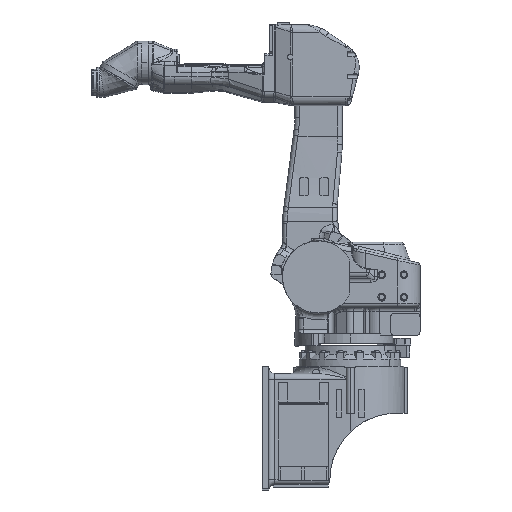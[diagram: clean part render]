
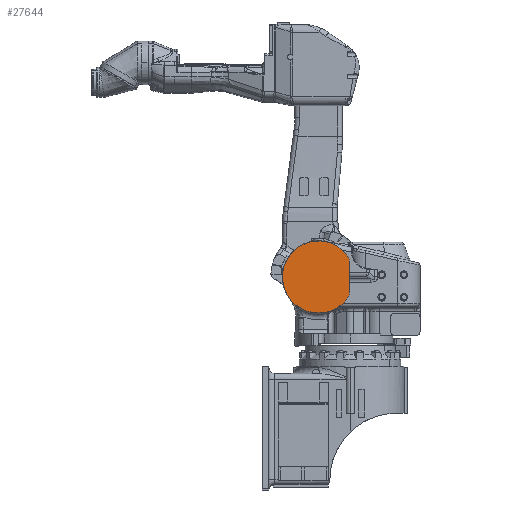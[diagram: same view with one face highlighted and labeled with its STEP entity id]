
A CAD part, left-side view. The second image highlights one B-rep face of the part: STEP entity #27644.
In plain terms, the highlighted planar face has unit normal (-1, 0, 0).
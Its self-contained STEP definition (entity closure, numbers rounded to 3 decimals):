
#24172=CARTESIAN_POINT('Vertex',(-255.,14.909,99.761)) ;
#24476=CARTESIAN_POINT('Vertex',(-255.,140.,-160.)) ;
#24479=CARTESIAN_POINT('Axis2P3D Location',(-255.,140.,0.)) ;
#27606=CARTESIAN_POINT('Axis2P3D Location',(-255.,140.,0.)) ;
#27611=CARTESIAN_POINT('Axis2P3D Location',(-255.,54.,-68.586)) ;
#27615=CARTESIAN_POINT('Vertex',(-255.,14.909,-99.761)) ;
#27617=CARTESIAN_POINT('Vertex',(-255.,4.,-68.586)) ;
#27620=CARTESIAN_POINT('Line Origine',(-255.,4.,0.)) ;
#27624=CARTESIAN_POINT('Vertex',(-255.,4.,68.586)) ;
#27627=CARTESIAN_POINT('Axis2P3D Location',(-255.,54.,68.586)) ;
#27632=CARTESIAN_POINT('Axis2P3D Location',(-255.,140.,0.)) ;
#24480=DIRECTION('Axis2P3D Direction',(-1.,0.,0.)) ;
#27607=DIRECTION('Axis2P3D Direction',(-1.,0.,0.)) ;
#27608=DIRECTION('Axis2P3D XDirection',(0.,1.,0.)) ;
#27612=DIRECTION('Axis2P3D Direction',(-1.,0.,0.)) ;
#27621=DIRECTION('Vector Direction',(0.,0.,-1.)) ;
#27628=DIRECTION('Axis2P3D Direction',(-1.,0.,0.)) ;
#27633=DIRECTION('Axis2P3D Direction',(-1.,0.,0.)) ;
#24481=AXIS2_PLACEMENT_3D('Circle Axis2P3D',#24479,#24480,$) ;
#27609=AXIS2_PLACEMENT_3D('Plane Axis2P3D',#27606,#27607,#27608) ;
#27613=AXIS2_PLACEMENT_3D('Circle Axis2P3D',#27611,#27612,$) ;
#27629=AXIS2_PLACEMENT_3D('Circle Axis2P3D',#27627,#27628,$) ;
#27634=AXIS2_PLACEMENT_3D('Circle Axis2P3D',#27632,#27633,$) ;
#27638=ORIENTED_EDGE('',*,*,#27619,.T.) ;
#27639=ORIENTED_EDGE('',*,*,#27626,.T.) ;
#27640=ORIENTED_EDGE('',*,*,#27631,.F.) ;
#27641=ORIENTED_EDGE('',*,*,#24483,.F.) ;
#27642=ORIENTED_EDGE('',*,*,#27636,.F.) ;
#27622=VECTOR('Line Direction',#27621,1.) ;
#27644=ADVANCED_FACE('\X2\FF8EFF9EFF83FF9EFF68FF70\X0\.86',(#27643),#27610,.T.) ;
#24482=CIRCLE('generated circle',#24481,160.) ;
#27614=CIRCLE('generated circle',#27613,50.) ;
#27630=CIRCLE('generated circle',#27629,50.) ;
#27635=CIRCLE('generated circle',#27634,160.) ;
#24483=EDGE_CURVE('',#24477,#24173,#24482,.F.) ;
#27619=EDGE_CURVE('',#27616,#27618,#27614,.T.) ;
#27626=EDGE_CURVE('',#27618,#27625,#27623,.F.) ;
#27631=EDGE_CURVE('',#24173,#27625,#27630,.F.) ;
#27636=EDGE_CURVE('',#27616,#24477,#27635,.F.) ;
#27637=EDGE_LOOP('',(#27638,#27639,#27640,#27641,#27642)) ;
#27643=FACE_OUTER_BOUND('',#27637,.T.) ;
#27623=LINE('Line',#27620,#27622) ;
#27610=PLANE('',#27609) ;
#24173=VERTEX_POINT('',#24172) ;
#24477=VERTEX_POINT('',#24476) ;
#27616=VERTEX_POINT('',#27615) ;
#27618=VERTEX_POINT('',#27617) ;
#27625=VERTEX_POINT('',#27624) ;
